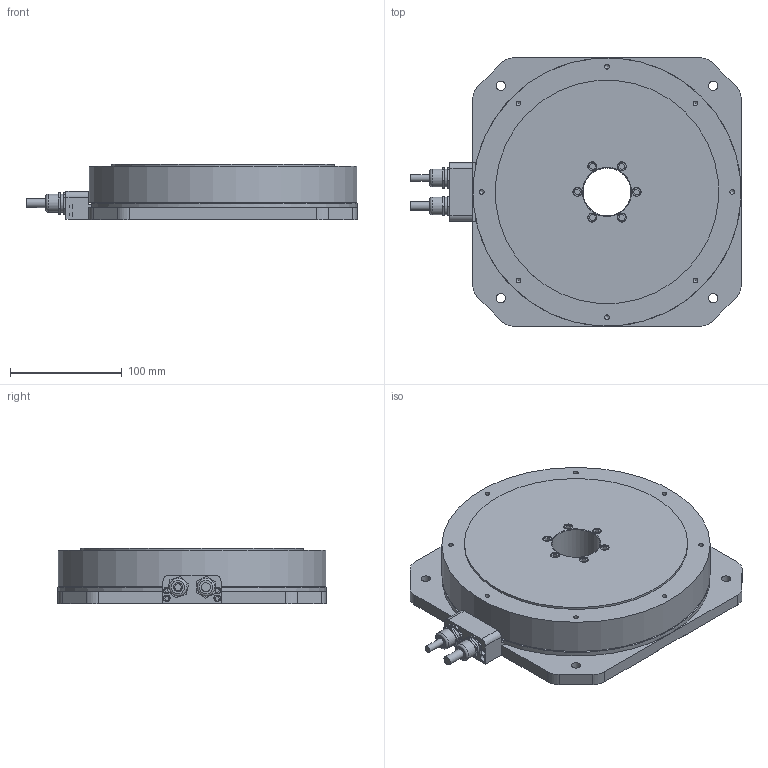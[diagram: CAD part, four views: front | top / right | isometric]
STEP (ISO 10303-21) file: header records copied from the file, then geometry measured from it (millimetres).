
FILE_DESCRIPTION( ( 'Unknown' ), '1' );
FILE_NAME( 'C:/Users/michael/Desktop/实体图底稿/RMB240-1三维模型.stp', 'Unknown', ( 'Unknown' ), ( 'Unknown' ), 'PSStep 17.0.49', 'Unknown', ' ' );
FILE_SCHEMA( ( 'AUTOMOTIVE_DESIGN { 1 0 10303 214 1 1 1 1 }' ) );
Length unit declared in the file: millimetre
Products named in the file (1): 驱动端盖
Bounding box: 295.5 x 240 x 50 mm (x, y, z)
Volume: 2273438.3 mm3; surface area: 180761.5 mm2
Topology: 1 solids, 18 shells, 347 faces, 797 edges, 532 vertices
Faces by surface type: plane 210, cylinder 99, bspline 21, cone 13, torus 4
Full cylindrical faces by diameter (mm): 1.567 x4, 2.459 x4, 3.6 x4, 4.134 x8, 4.8 x6, 5.6 x4, 6 x5, 7.6 x6, 8 x9, 8.376 x4, 12 x2, 16 x4, 43 x1, 200 x1, 232 x1, 234 x1, 240 x1
Entity records: 16612 total; most frequent: CARTESIAN_POINT 6631, DIRECTION 1437, ORIENTED_EDGE 1320, EDGE_CURVE 660, AXIS2_PLACEMENT_3D 516, EDGE_LOOP 494, VERTEX_POINT 490, FACE_OUTER_BOUND 416
